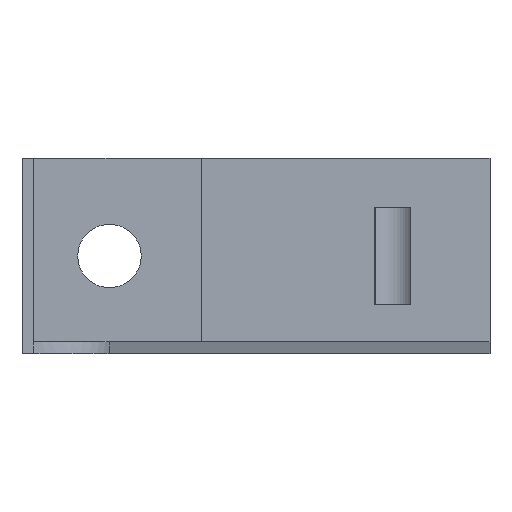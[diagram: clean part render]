
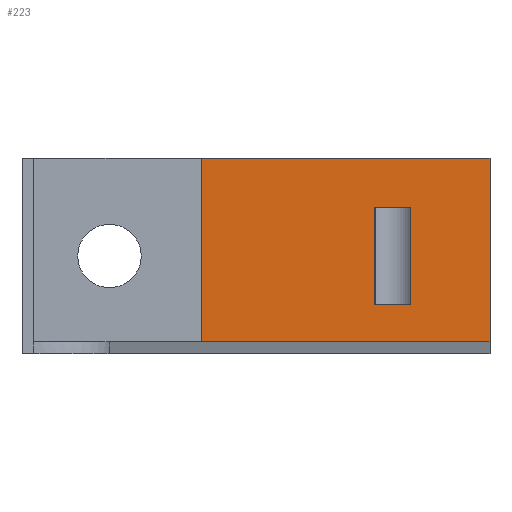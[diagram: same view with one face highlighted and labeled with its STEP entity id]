
A CAD part, left-side view. The second image highlights one B-rep face of the part: STEP entity #223.
In plain terms, the highlighted planar face has unit normal (-1, 0, 0).
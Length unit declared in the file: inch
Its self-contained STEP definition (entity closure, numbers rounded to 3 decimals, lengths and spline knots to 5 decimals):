
#135=EDGE_CURVE('',#353,#354,#355,.T.);
#201=EDGE_CURVE('',#462,#354,#463,.T.);
#223=ADVANCED_FACE('',(#494,#495),#496,.T.);
#289=EDGE_CURVE('',#574,#353,#587,.T.);
#353=VERTEX_POINT('',#661);
#354=VERTEX_POINT('',#662);
#355=LINE('',#663,#664);
#462=VERTEX_POINT('',#908);
#463=LINE('',#909,#910);
#494=FACE_OUTER_BOUND('',#992,.T.);
#495=FACE_BOUND('',#993,.T.);
#496=PLANE('',#994);
#574=VERTEX_POINT('',#1139);
#587=LINE('',#1164,#1165);
#661=CARTESIAN_POINT('',(4.77524,-1.22053,1.175));
#662=CARTESIAN_POINT('',(4.77524,0.62948,1.175));
#663=CARTESIAN_POINT('',(4.77524,-1.22053,1.175));
#664=VECTOR('',#1242,1.0);
#908=CARTESIAN_POINT('',(4.77524,0.62948,0.0));
#909=CARTESIAN_POINT('',(4.77524,0.62948,-0.075));
#910=VECTOR('',#1396,1.0);
#992=EDGE_LOOP('',(#1454,#1455,#1456,#1457));
#993=EDGE_LOOP('',(#1458,#1459,#1460,#1461));
#994=AXIS2_PLACEMENT_3D('',#1462,#1463,#1464);
#1139=CARTESIAN_POINT('',(4.77524,-1.22053,0.0));
#1164=CARTESIAN_POINT('',(4.77524,-1.22053,-0.075));
#1165=VECTOR('',#1611,1.0);
#1242=DIRECTION('',(0.0,1.0,0.0));
#1396=DIRECTION('',(0.0,0.0,1.0));
#1454=ORIENTED_EDGE('',*,*,#1667,.T.);
#1455=ORIENTED_EDGE('',*,*,#289,.T.);
#1456=ORIENTED_EDGE('',*,*,#135,.T.);
#1457=ORIENTED_EDGE('',*,*,#201,.F.);
#1458=ORIENTED_EDGE('',*,*,#1662,.T.);
#1459=ORIENTED_EDGE('',*,*,#1736,.T.);
#1460=ORIENTED_EDGE('',*,*,#1706,.T.);
#1461=ORIENTED_EDGE('',*,*,#1734,.T.);
#1462=CARTESIAN_POINT('',(4.77524,-0.29553,-0.075));
#1463=DIRECTION('',(-1.0,-0.0,0.0));
#1464=DIRECTION('',(0.0,-1.0,-0.0));
#1611=DIRECTION('',(0.0,0.0,1.0));
#1662=EDGE_CURVE('',#1809,#1807,#1810,.T.);
#1667=EDGE_CURVE('',#462,#574,#1816,.T.);
#1706=EDGE_CURVE('',#1871,#1869,#1872,.T.);
#1734=EDGE_CURVE('',#1869,#1809,#1908,.T.);
#1736=EDGE_CURVE('',#1807,#1871,#1910,.T.);
#1807=VERTEX_POINT('',#2037);
#1809=VERTEX_POINT('',#2040);
#1810=LINE('',#2041,#2042);
#1816=LINE('',#2053,#2054);
#1869=VERTEX_POINT('',#2150);
#1871=VERTEX_POINT('',#2153);
#1872=LINE('',#2154,#2155);
#1908=LINE('',#2224,#2225);
#1910=LINE('',#2227,#2228);
#2037=CARTESIAN_POINT('',(4.77524,-0.71011,0.2375));
#2040=CARTESIAN_POINT('',(4.77524,-0.71011,0.8625));
#2041=CARTESIAN_POINT('',(4.77524,-0.71011,0.2375));
#2042=VECTOR('',#2284,1.0);
#2053=CARTESIAN_POINT('',(4.77524,0.24772,0.0));
#2054=VECTOR('',#2287,1.0);
#2150=CARTESIAN_POINT('',(4.77524,-0.48099,0.8625));
#2153=CARTESIAN_POINT('',(4.77524,-0.48099,0.2375));
#2154=CARTESIAN_POINT('',(4.77524,-0.48099,0.2375));
#2155=VECTOR('',#2305,1.0);
#2224=CARTESIAN_POINT('',(4.77524,-0.44554,0.8625));
#2225=VECTOR('',#2315,1.0);
#2227=CARTESIAN_POINT('',(4.77524,-0.44554,0.2375));
#2228=VECTOR('',#2316,1.0);
#2284=DIRECTION('',(0.0,0.0,-1.0));
#2287=DIRECTION('',(0.0,-1.0,0.0));
#2305=DIRECTION('',(0.0,0.0,1.0));
#2315=DIRECTION('',(0.0,-1.0,0.0));
#2316=DIRECTION('',(0.0,1.0,0.0));
